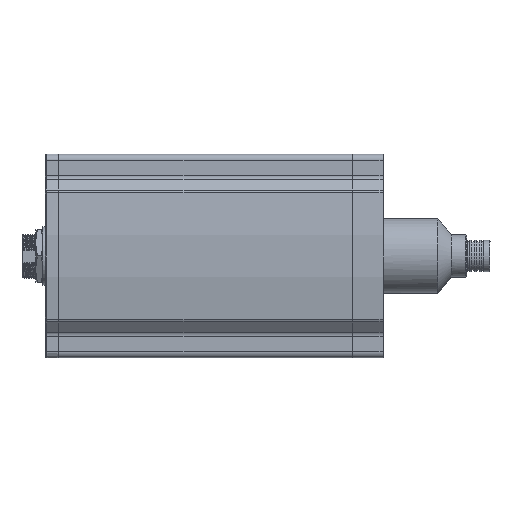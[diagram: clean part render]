
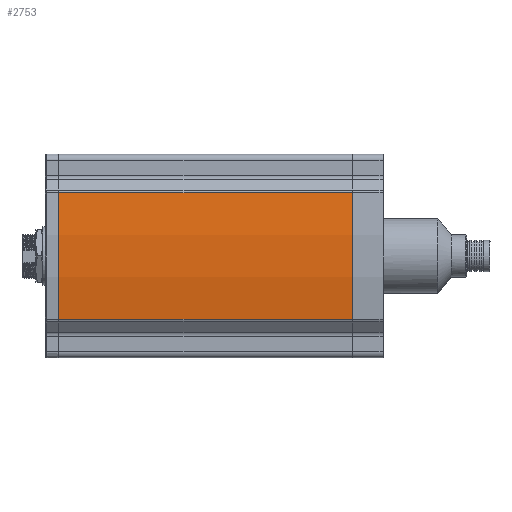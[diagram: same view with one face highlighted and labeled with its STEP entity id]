
A CAD part, front view. The second image highlights one B-rep face of the part: STEP entity #2753.
In plain terms, the highlighted cylindrical face has radius 165.451 mm (diameter 330.901 mm), a partial arc.
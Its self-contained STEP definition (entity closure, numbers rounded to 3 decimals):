
#1580=CYLINDRICAL_SURFACE('',#25881,165.451);
#2753=ADVANCED_FACE('',(#4523),#1580,.T.);
#4523=FACE_OUTER_BOUND('',#6206,.T.);
#6206=EDGE_LOOP('',(#11303,#11304,#11305,#11306));
#11303=ORIENTED_EDGE('',*,*,#18143,.T.);
#11304=ORIENTED_EDGE('',*,*,#18258,.F.);
#11305=ORIENTED_EDGE('',*,*,#17901,.T.);
#11306=ORIENTED_EDGE('',*,*,#18259,.F.);
#14975=VERTEX_POINT('',#70908);
#14976=VERTEX_POINT('',#70910);
#15215=VERTEX_POINT('',#71391);
#15216=VERTEX_POINT('',#71393);
#17901=EDGE_CURVE('',#14976,#14975,#21091,.T.);
#18143=EDGE_CURVE('',#15216,#15215,#21266,.T.);
#18258=EDGE_CURVE('',#14976,#15215,#22306,.T.);
#18259=EDGE_CURVE('',#15216,#14975,#22307,.T.);
#21091=CIRCLE('',#25621,165.451);
#21266=CIRCLE('',#25797,165.451);
#22306=LINE('',#71615,#23626);
#22307=LINE('',#71616,#23627);
#23626=VECTOR('',#30585,1.);
#23627=VECTOR('',#30586,1.);
#25621=AXIS2_PLACEMENT_3D('',#70909,#29957,#29958);
#25797=AXIS2_PLACEMENT_3D('',#71392,#30376,#30377);
#25881=AXIS2_PLACEMENT_3D('',#71617,#30587,#30588);
#29957=DIRECTION('',(1.,0.,0.));
#29958=DIRECTION('',(0.,0.,-1.));
#30376=DIRECTION('',(-1.,0.,0.));
#30377=DIRECTION('',(0.,-0.987,-0.158));
#30585=DIRECTION('',(1.,0.,0.));
#30586=DIRECTION('',(-1.,0.,0.));
#30587=DIRECTION('',(-1.,0.,0.));
#30588=DIRECTION('',(0.,-0.987,-0.158));
#70908=CARTESIAN_POINT('',(-52.,-32.707,-26.212));
#70909=CARTESIAN_POINT('',(-52.,130.654,0.));
#70910=CARTESIAN_POINT('',(-52.,-32.707,26.212));
#71391=CARTESIAN_POINT('',(70.,-32.707,26.212));
#71392=CARTESIAN_POINT('',(70.,130.654,0.));
#71393=CARTESIAN_POINT('',(70.,-32.707,-26.212));
#71615=CARTESIAN_POINT('',(-70.,-32.707,26.212));
#71616=CARTESIAN_POINT('',(70.,-32.707,-26.212));
#71617=CARTESIAN_POINT('',(0.,130.654,0.));
